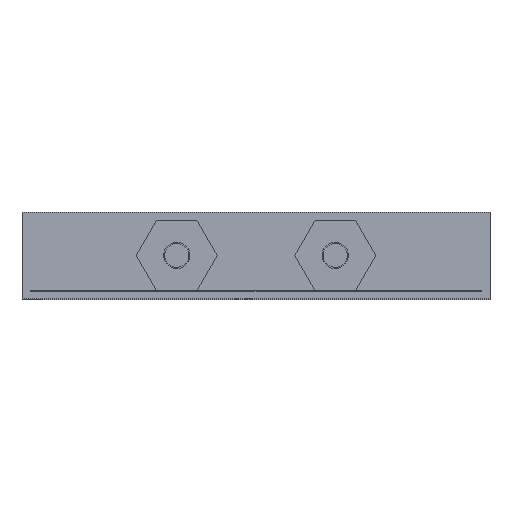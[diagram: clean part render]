
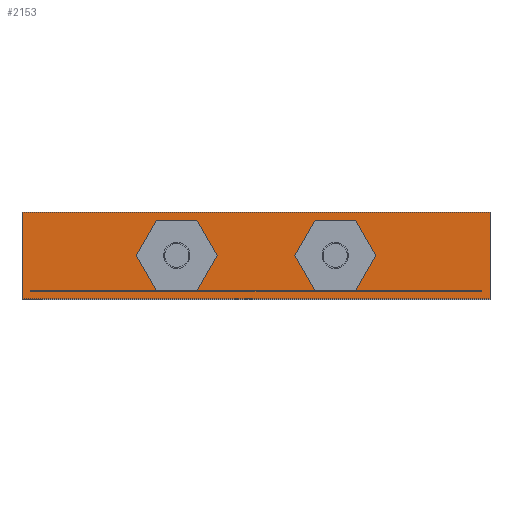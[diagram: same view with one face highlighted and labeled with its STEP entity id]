
A CAD part, front view. The second image highlights one B-rep face of the part: STEP entity #2153.
In plain terms, the highlighted planar face has unit normal (0, -1, 0).
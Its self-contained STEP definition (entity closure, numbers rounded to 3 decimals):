
#14=LINE($,#2943,#242);
#18=LINE($,#2951,#246);
#21=LINE($,#2957,#249);
#24=LINE($,#2963,#252);
#27=LINE($,#2969,#255);
#30=LINE($,#2974,#258);
#32=LINE($,#2988,#260);
#36=LINE($,#2996,#264);
#39=LINE($,#3002,#267);
#42=LINE($,#3008,#270);
#45=LINE($,#3014,#273);
#48=LINE($,#3019,#276);
#146=LINE($,#3260,#374);
#148=LINE($,#3265,#376);
#149=LINE($,#3266,#377);
#150=LINE($,#3267,#378);
#242=VECTOR($,#2402,6.928);
#246=VECTOR($,#2408,6.928);
#249=VECTOR($,#2413,6.928);
#252=VECTOR($,#2418,6.928);
#255=VECTOR($,#2423,6.928);
#258=VECTOR($,#2428,6.928);
#260=VECTOR($,#2444,6.928);
#264=VECTOR($,#2450,6.928);
#267=VECTOR($,#2455,6.928);
#270=VECTOR($,#2460,6.928);
#273=VECTOR($,#2465,6.928);
#276=VECTOR($,#2470,6.928);
#374=VECTOR($,#2674,80.);
#376=VECTOR($,#2678,80.);
#377=VECTOR($,#2679,14.8);
#378=VECTOR($,#2680,14.8);
#515=PLANE($,#2301);
#600=FACE_BOUND($,#828,.T.);
#601=FACE_BOUND($,#829,.T.);
#602=FACE_BOUND($,#830,.T.);
#828=EDGE_LOOP($,(#1668,#1669,#1670,#1671,#1672,#1673));
#829=EDGE_LOOP($,(#1674,#1675,#1676,#1677,#1678,#1679));
#830=EDGE_LOOP($,(#1680,#1681,#1682,#1683));
#963=VERTEX_POINT($,#2941);
#964=VERTEX_POINT($,#2942);
#967=VERTEX_POINT($,#2950);
#969=VERTEX_POINT($,#2956);
#971=VERTEX_POINT($,#2962);
#973=VERTEX_POINT($,#2968);
#978=VERTEX_POINT($,#2986);
#979=VERTEX_POINT($,#2987);
#982=VERTEX_POINT($,#2995);
#984=VERTEX_POINT($,#3001);
#986=VERTEX_POINT($,#3007);
#988=VERTEX_POINT($,#3013);
#1078=VERTEX_POINT($,#3257);
#1079=VERTEX_POINT($,#3259);
#1080=VERTEX_POINT($,#3263);
#1081=VERTEX_POINT($,#3264);
#1155=EDGE_CURVE($,#963,#964,#14,.T.);
#1159=EDGE_CURVE($,#967,#963,#18,.T.);
#1162=EDGE_CURVE($,#969,#967,#21,.T.);
#1165=EDGE_CURVE($,#971,#969,#24,.T.);
#1168=EDGE_CURVE($,#973,#971,#27,.T.);
#1171=EDGE_CURVE($,#964,#973,#30,.T.);
#1176=EDGE_CURVE($,#978,#979,#32,.T.);
#1180=EDGE_CURVE($,#982,#978,#36,.T.);
#1183=EDGE_CURVE($,#984,#982,#39,.T.);
#1186=EDGE_CURVE($,#986,#984,#42,.T.);
#1189=EDGE_CURVE($,#988,#986,#45,.T.);
#1192=EDGE_CURVE($,#979,#988,#48,.T.);
#1305=EDGE_CURVE($,#1078,#1079,#146,.T.);
#1307=EDGE_CURVE($,#1080,#1081,#148,.T.);
#1308=EDGE_CURVE($,#1079,#1080,#149,.T.);
#1309=EDGE_CURVE($,#1081,#1078,#150,.T.);
#1668=ORIENTED_EDGE($,*,*,#1155,.T.);
#1669=ORIENTED_EDGE($,*,*,#1171,.T.);
#1670=ORIENTED_EDGE($,*,*,#1168,.T.);
#1671=ORIENTED_EDGE($,*,*,#1165,.T.);
#1672=ORIENTED_EDGE($,*,*,#1162,.T.);
#1673=ORIENTED_EDGE($,*,*,#1159,.T.);
#1674=ORIENTED_EDGE($,*,*,#1176,.T.);
#1675=ORIENTED_EDGE($,*,*,#1192,.T.);
#1676=ORIENTED_EDGE($,*,*,#1189,.T.);
#1677=ORIENTED_EDGE($,*,*,#1186,.T.);
#1678=ORIENTED_EDGE($,*,*,#1183,.T.);
#1679=ORIENTED_EDGE($,*,*,#1180,.T.);
#1680=ORIENTED_EDGE($,*,*,#1307,.F.);
#1681=ORIENTED_EDGE($,*,*,#1308,.F.);
#1682=ORIENTED_EDGE($,*,*,#1305,.F.);
#1683=ORIENTED_EDGE($,*,*,#1309,.F.);
#2153=ADVANCED_FACE($,(#600,#601,#602),#515,.F.);
#2301=AXIS2_PLACEMENT_3D($,#3262,#2676,#2677);
#2402=DIRECTION($,(-0.5,0.,0.866));
#2408=DIRECTION($,(-1.,0.,0.));
#2413=DIRECTION($,(-0.5,0.,-0.866));
#2418=DIRECTION($,(0.5,0.,-0.866));
#2423=DIRECTION($,(1.,0.,0.));
#2428=DIRECTION($,(0.5,0.,0.866));
#2444=DIRECTION($,(-0.5,0.,0.866));
#2450=DIRECTION($,(-1.,0.,0.));
#2455=DIRECTION($,(-0.5,0.,-0.866));
#2460=DIRECTION($,(0.5,0.,-0.866));
#2465=DIRECTION($,(1.,0.,0.));
#2470=DIRECTION($,(0.5,0.,0.866));
#2674=DIRECTION($,(-1.,0.,0.));
#2676=DIRECTION('center_axis',(0.,1.,0.));
#2677=DIRECTION('ref_axis',(1.,0.,0.));
#2678=DIRECTION($,(1.,0.,0.));
#2679=DIRECTION($,(0.,0.,1.));
#2680=DIRECTION($,(0.,0.,-1.));
#2941=CARTESIAN_POINT('',(-29.914,-1.6,1.6));
#2942=CARTESIAN_POINT('',(-33.378,-1.6,7.6));
#2943=CARTESIAN_POINT($,(-34.206,-1.6,9.034));
#2950=CARTESIAN_POINT('',(-22.986,-1.6,1.6));
#2951=CARTESIAN_POINT($,(-34.957,-1.6,1.6));
#2956=CARTESIAN_POINT('',(-19.522,-1.6,7.6));
#2957=CARTESIAN_POINT($,(-23.814,-1.6,0.166));
#2962=CARTESIAN_POINT('',(-22.986,-1.6,13.6));
#2963=CARTESIAN_POINT($,(-22.082,-1.6,12.034));
#2968=CARTESIAN_POINT('',(-29.914,-1.6,13.6));
#2969=CARTESIAN_POINT($,(-31.493,-1.6,13.6));
#2974=CARTESIAN_POINT($,(-32.474,-1.6,9.166));
#2986=CARTESIAN_POINT('',(-57.014,-1.6,1.6));
#2987=CARTESIAN_POINT('',(-60.478,-1.6,7.6));
#2988=CARTESIAN_POINT($,(-57.918,-1.6,3.166));
#2995=CARTESIAN_POINT('',(-50.086,-1.6,1.6));
#2996=CARTESIAN_POINT($,(-48.507,-1.6,1.6));
#3001=CARTESIAN_POINT('',(-46.622,-1.6,7.6));
#3002=CARTESIAN_POINT($,(-47.526,-1.6,6.034));
#3007=CARTESIAN_POINT('',(-50.086,-1.6,13.6));
#3008=CARTESIAN_POINT($,(-45.794,-1.6,6.166));
#3013=CARTESIAN_POINT('',(-57.014,-1.6,13.6));
#3014=CARTESIAN_POINT($,(-45.043,-1.6,13.6));
#3019=CARTESIAN_POINT($,(-56.186,-1.6,15.034));
#3257=CARTESIAN_POINT('',(0.,-1.6,0.2));
#3259=CARTESIAN_POINT('',(-80.,-1.6,0.2));
#3260=CARTESIAN_POINT($,(0.,-1.6,0.2));
#3262=CARTESIAN_POINT('Origin',(-40.,-1.6,7.6));
#3263=CARTESIAN_POINT('',(-80.,-1.6,15.));
#3264=CARTESIAN_POINT('',(0.,-1.6,15.));
#3265=CARTESIAN_POINT($,(-80.,-1.6,15.));
#3266=CARTESIAN_POINT($,(-80.,-1.6,0.2));
#3267=CARTESIAN_POINT($,(0.,-1.6,15.));
